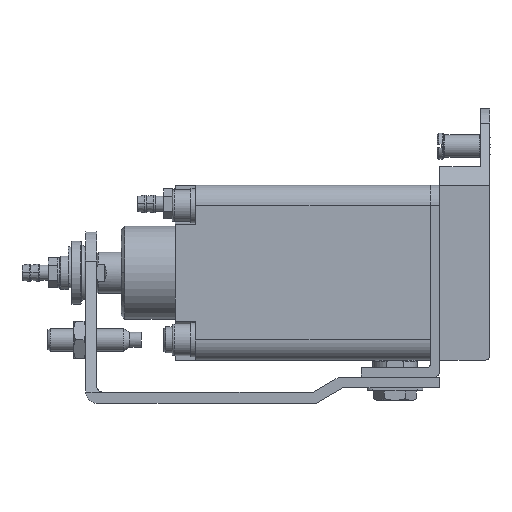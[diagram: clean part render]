
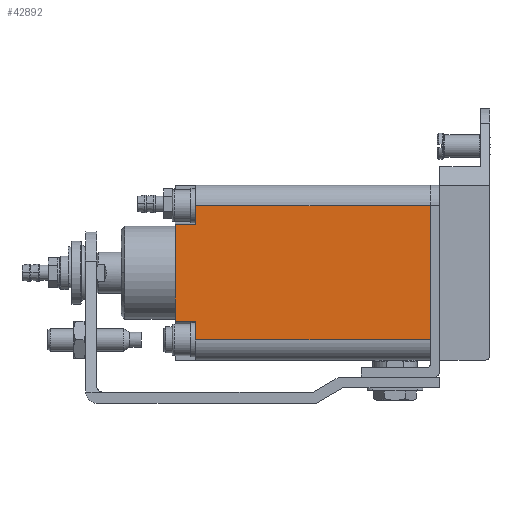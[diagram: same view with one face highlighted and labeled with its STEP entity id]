
A CAD part, left-side view. The second image highlights one B-rep face of the part: STEP entity #42892.
In plain terms, the highlighted planar face has unit normal (1, 0, 0).
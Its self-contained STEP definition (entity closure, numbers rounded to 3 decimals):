
#3015 = AXIS2_PLACEMENT_3D ( 'NONE', #3801, #28074, #7324 ) ;
#3520 = VERTEX_POINT ( 'NONE', #17434 ) ;
#3676 = LINE ( 'NONE', #8848, #12940 ) ;
#3719 = CARTESIAN_POINT ( 'NONE',  ( -21., 63., -18. ) ) ;
#3801 = CARTESIAN_POINT ( 'NONE',  ( -21., 0., -18. ) ) ;
#4354 = VECTOR ( 'NONE', #6155, 1000. ) ;
#4692 = DIRECTION ( 'NONE',  ( 0., 1., 0. ) ) ;
#5405 = DIRECTION ( 'NONE',  ( 0., 0., 1. ) ) ;
#5528 = CARTESIAN_POINT ( 'NONE',  ( -21., 63., 13. ) ) ;
#6155 = DIRECTION ( 'NONE',  ( 0., -1., 0. ) ) ;
#6842 = EDGE_CURVE ( 'NONE', #36648, #29450, #39553, .T. ) ;
#7324 = DIRECTION ( 'NONE',  ( 0., 0., 1. ) ) ;
#7970 = ORIENTED_EDGE ( 'NONE', *, *, #6842, .F. ) ;
#8848 = CARTESIAN_POINT ( 'NONE',  ( -21., 68.5, 0. ) ) ;
#9542 = ORIENTED_EDGE ( 'NONE', *, *, #37982, .T. ) ;
#10524 = CARTESIAN_POINT ( 'NONE',  ( -21., 68.5, -13. ) ) ;
#10709 = CARTESIAN_POINT ( 'NONE',  ( -21., 63., 0. ) ) ;
#12101 = ORIENTED_EDGE ( 'NONE', *, *, #42614, .T. ) ;
#12855 = VECTOR ( 'NONE', #20555, 1000. ) ;
#12940 = VECTOR ( 'NONE', #15968, 1000. ) ;
#13192 = ORIENTED_EDGE ( 'NONE', *, *, #18955, .F. ) ;
#13838 = VECTOR ( 'NONE', #24162, 1000. ) ;
#14585 = CARTESIAN_POINT ( 'NONE',  ( -21., 63., -13. ) ) ;
#15968 = DIRECTION ( 'NONE',  ( 0., 0., 1. ) ) ;
#16021 = ORIENTED_EDGE ( 'NONE', *, *, #21486, .F. ) ;
#16524 = CARTESIAN_POINT ( 'NONE',  ( -21., 31.5, -18. ) ) ;
#17434 = CARTESIAN_POINT ( 'NONE',  ( -21., 63., 18. ) ) ;
#18491 = CARTESIAN_POINT ( 'NONE',  ( -21., 34.25, 18. ) ) ;
#18955 = EDGE_CURVE ( 'NONE', #25067, #26441, #43827, .T. ) ;
#19368 = CARTESIAN_POINT ( 'NONE',  ( -21., 0., 18. ) ) ;
#19385 = CARTESIAN_POINT ( 'NONE',  ( -21., 68.5, 13. ) ) ;
#19410 = EDGE_CURVE ( 'NONE', #3520, #36301, #42680, .T. ) ;
#20555 = DIRECTION ( 'NONE',  ( 0., -1., 0. ) ) ;
#20681 = CARTESIAN_POINT ( 'NONE',  ( -21., 63., -18.25 ) ) ;
#21209 = EDGE_CURVE ( 'NONE', #26441, #3520, #43833, .T. ) ;
#21486 = EDGE_CURVE ( 'NONE', #43861, #25067, #26226, .T. ) ;
#21949 = LINE ( 'NONE', #20681, #13838 ) ;
#22819 = LINE ( 'NONE', #34133, #4354 ) ;
#23161 = FACE_OUTER_BOUND ( 'NONE', #39616, .T. ) ;
#24162 = DIRECTION ( 'NONE',  ( 0., 0., 1. ) ) ;
#25067 = VERTEX_POINT ( 'NONE', #27216 ) ;
#26226 = LINE ( 'NONE', #16524, #43791 ) ;
#26441 = VERTEX_POINT ( 'NONE', #19368 ) ;
#27216 = CARTESIAN_POINT ( 'NONE',  ( -21., 0., -18. ) ) ;
#27924 = ORIENTED_EDGE ( 'NONE', *, *, #36608, .T. ) ;
#28074 = DIRECTION ( 'NONE',  ( -1., 0., 0. ) ) ;
#29450 = VERTEX_POINT ( 'NONE', #14585 ) ;
#31649 = DIRECTION ( 'NONE',  ( 0., 0., -1. ) ) ;
#32571 = ORIENTED_EDGE ( 'NONE', *, *, #21209, .F. ) ;
#33056 = CARTESIAN_POINT ( 'NONE',  ( -21., 0., 0. ) ) ;
#33088 = VERTEX_POINT ( 'NONE', #19385 ) ;
#33349 = VECTOR ( 'NONE', #31649, 1000. ) ;
#34039 = DIRECTION ( 'NONE',  ( 0., -1., 0. ) ) ;
#34133 = CARTESIAN_POINT ( 'NONE',  ( -21., 65.75, 13. ) ) ;
#34521 = VECTOR ( 'NONE', #5405, 1000. ) ;
#35004 = PLANE ( 'NONE',  #3015 ) ;
#36301 = VERTEX_POINT ( 'NONE', #5528 ) ;
#36608 = EDGE_CURVE ( 'NONE', #43861, #29450, #21949, .T. ) ;
#36648 = VERTEX_POINT ( 'NONE', #10524 ) ;
#37982 = EDGE_CURVE ( 'NONE', #33088, #36301, #22819, .T. ) ;
#39553 = LINE ( 'NONE', #43646, #12855 ) ;
#39616 = EDGE_LOOP ( 'NONE', ( #43145, #32571, #13192, #16021, #27924, #7970, #12101, #9542 ) ) ;
#42614 = EDGE_CURVE ( 'NONE', #36648, #33088, #3676, .T. ) ;
#42680 = LINE ( 'NONE', #10709, #33349 ) ;
#42735 = VECTOR ( 'NONE', #4692, 1000. ) ;
#42892 = ADVANCED_FACE ( 'NONE', ( #23161 ), #35004, .F. ) ;
#43145 = ORIENTED_EDGE ( 'NONE', *, *, #19410, .F. ) ;
#43646 = CARTESIAN_POINT ( 'NONE',  ( -21., 34.25, -13. ) ) ;
#43791 = VECTOR ( 'NONE', #34039, 1000. ) ;
#43827 = LINE ( 'NONE', #33056, #34521 ) ;
#43833 = LINE ( 'NONE', #18491, #42735 ) ;
#43861 = VERTEX_POINT ( 'NONE', #3719 ) ;
